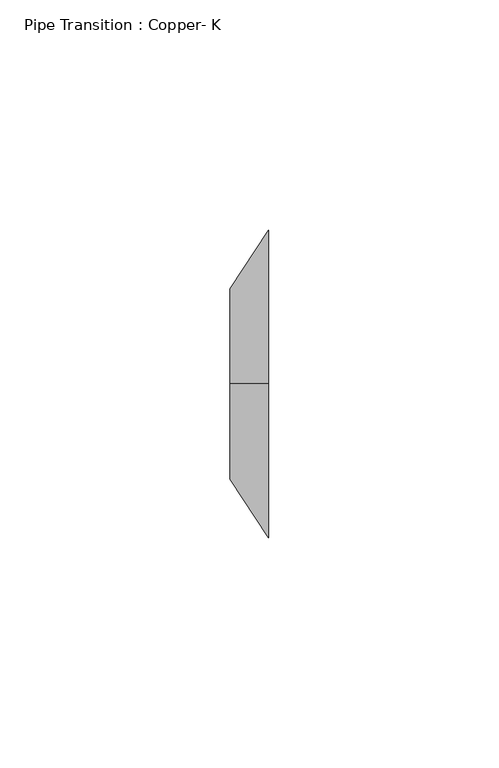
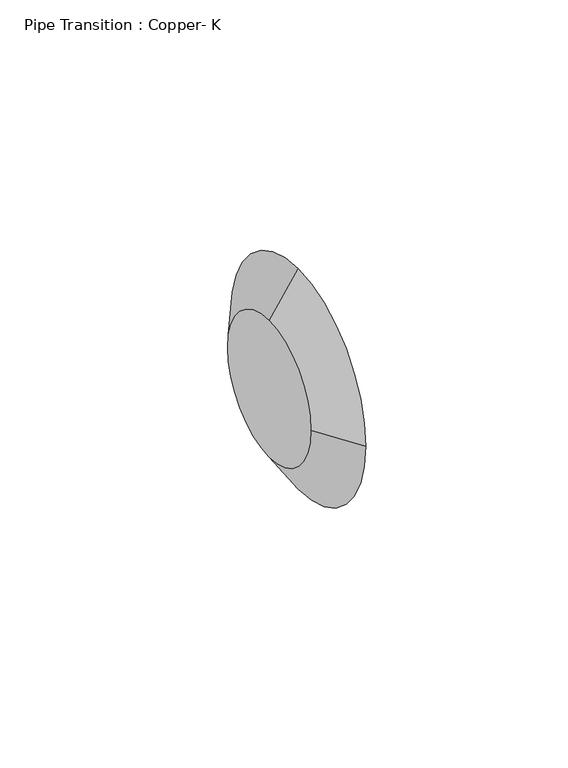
"""IFC4 building model written with IfcOpenShell, lengths in millimetres: pipe fitting geometry, Pipe Transition : Copper- K."""

from ifc_helpers import new_model, si_unit, frame, origin, place, context, project, spatial, polyline, circle_curve, source, transform, mapped, element, save
from ifc_brep_helpers import plane_surface, revolved_surface, advanced_brep


def pipe_transition_copper_k_b6fcaa56(model_context):
    return source(origin(), model_context, "Body", "AdvancedBrep", [
        advanced_brep(
        [(8.334375, 0.0, 33.3375), (8.334375, -33.3375, 0.0), (8.334375, 0.0, -33.3375), (8.334375, 33.3375, 0.0), (0.0, 0.0, 20.6375), (0.0, 20.6375, 0.0), (0.0, 0.0, -20.6375), (0.0, -20.6375, 0.0)],
        [
            (0, 1, circle_curve(frame((8.334375, 0.0, 0.0), z_axis=(1.0, 0.0, 0.0), x_axis=(0.0, 0.0, 1.0)), 33.3375)),
            (1, 2, circle_curve(frame((8.334375, 0.0, 0.0), z_axis=(1.0, 0.0, 0.0), x_axis=(0.0, -1.0, 0.0)), 33.3375)),
            (2, 3, circle_curve(frame((8.334375, 0.0, 0.0), z_axis=(1.0, 0.0, 0.0), x_axis=(0.0, 0.0, -1.0)), 33.3375)),
            (3, 0, circle_curve(frame((8.334375, 0.0, 0.0), z_axis=(1.0, 0.0, 0.0), x_axis=(0.0, 1.0, 0.0)), 33.3375)),
            (4, 5, circle_curve(frame((0.0, 0.0, 0.0), z_axis=(-1.0, 0.0, 0.0), x_axis=(0.0, 1.0, 0.0)), 20.6375)),
            (5, 6, circle_curve(frame((0.0, 0.0, 0.0), z_axis=(-1.0, 0.0, 0.0), x_axis=(0.0, 0.0, -1.0)), 20.6375)),
            (6, 7, circle_curve(frame((0.0, 0.0, 0.0), z_axis=(-1.0, 0.0, 0.0), x_axis=(0.0, -1.0, 0.0)), 20.6375)),
            (7, 4, circle_curve(frame((0.0, 0.0, 0.0), z_axis=(-1.0, 0.0, 0.0), x_axis=(0.0, 0.0, 1.0)), 20.6375)),
            (7, 1),
            (0, 4),
            (6, 2),
            (5, 3),
        ],
        [
            plane_surface(frame((8.334375, 0.0, 0.0), z_axis=(1.0, 0.0, 0.0), x_axis=(0.0, -1.0, 0.0))),
            plane_surface(frame((0.0, 0.0, 0.0), z_axis=(-1.0, 0.0, 0.0), x_axis=(0.0, -1.0, 0.0))),
            revolved_surface(polyline([(0.0, -20.63750001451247, 0.0), (8.334375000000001, -33.3375, 0.0)]), (-13.5433594, 0.0, 0.0), (1.0, 0.0, 0.0)),
            revolved_surface(polyline([(0.0, 0.0, -20.63750001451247), (8.334375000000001, 0.0, -33.3375)]), (-13.5433594, 0.0, 0.0), (1.0, 0.0, 0.0)),
            revolved_surface(polyline([(0.0, 20.63750001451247, 0.0), (8.334375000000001, 33.3375, 0.0)]), (-13.5433594, 0.0, 0.0), (1.0, 0.0, 0.0)),
            revolved_surface(polyline([(0.0, 0.0, 20.63750001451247), (8.334375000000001, 0.0, 33.3375)]), (-13.5433594, 0.0, 0.0), (1.0, 0.0, 0.0)),
        ],
        [
            (0, [[1, 2, 3, 4]]),
            (1, [[5, 6, 7, 8]]),
            (2, [[-8, 9, -1, 10]]),
            (3, [[-7, 11, -2, -9]]),
            (4, [[-6, 12, -3, -11]]),
            (5, [[-5, -10, -4, -12]]),
        ],
    ),
        advanced_brep(
        [(8.334375, 0.0, 33.3375), (8.334375, -33.3375, 0.0), (8.334375, 0.0, -33.3375), (8.334375, 33.3375, 0.0), (0.0, 0.0, 20.6375), (0.0, 20.6375, 0.0), (0.0, 0.0, -20.6375), (0.0, -20.6375, 0.0)],
        [
            (0, 1, circle_curve(frame((8.334375, 0.0, 0.0), z_axis=(1.0, 0.0, -1.0080245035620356e-12), x_axis=(1.0080406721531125e-12, 0.0, 1.0)), 33.3375)),
            (1, 2, circle_curve(frame((8.334375, 0.0, 0.0), z_axis=(1.0, 0.0, 0.0), x_axis=(0.0, -1.0, 0.0)), 33.3375)),
            (2, 3, circle_curve(frame((8.334375, 0.0, 0.0), z_axis=(1.0, 0.0, -1.5686117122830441e-12), x_axis=(-1.5685649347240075e-12, 0.0, -1.0)), 33.3375)),
            (3, 0, circle_curve(frame((8.334375, 0.0, 0.0), z_axis=(1.0, 0.0, 0.0), x_axis=(0.0, 1.0, 0.0)), 33.3375)),
            (4, 5, circle_curve(frame((0.0, 0.0, 0.0), z_axis=(-1.0, 0.0, 0.0), x_axis=(0.0, 1.0, 0.0)), 20.6375)),
            (5, 6, circle_curve(frame((0.0, 0.0, 0.0), z_axis=(-1.0, 0.0, 1.5686117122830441e-12), x_axis=(-1.5685649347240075e-12, 0.0, -1.0)), 20.6375)),
            (6, 7, circle_curve(frame((0.0, 0.0, 0.0), z_axis=(-1.0, 0.0, 0.0), x_axis=(0.0, -1.0, 0.0)), 20.6375)),
            (7, 4, circle_curve(frame((0.0, 0.0, 0.0), z_axis=(-1.0, 0.0, 1.0080245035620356e-12), x_axis=(1.0080406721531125e-12, 0.0, 1.0)), 20.6375)),
            (7, 1),
            (0, 4),
            (6, 2),
            (5, 3),
        ],
        [
            plane_surface(frame((8.334375, 0.0, 0.0), z_axis=(1.0, 0.0, 0.0), x_axis=(0.0, -1.0, 0.0))),
            plane_surface(frame((0.0, 0.0, 0.0), z_axis=(-1.0, 0.0, 0.0), x_axis=(0.0, -1.0, 0.0))),
            revolved_surface(polyline([(-2.0802914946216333e-11, -20.637500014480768, 0.0), (8.334375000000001, -33.3375, 0.0)]), (-13.5433594, 0.0, 0.0), (1.0, 0.0, -1.0080245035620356e-12)),
            revolved_surface(polyline([(0.0, 0.0, -20.63750001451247), (8.334375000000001, 0.0, -33.3375)]), (-13.5433594, 0.0, 0.0), (1.0, 0.0, 0.0)),
            revolved_surface(polyline([(0.0, 20.63750001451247, 0.0), (8.334375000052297, 33.337500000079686, 0.0)]), (-13.5433594, 0.0, 0.0), (1.0, 0.0, -1.5686117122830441e-12)),
            revolved_surface(polyline([(0.0, 0.0, 20.63750001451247), (8.334375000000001, 0.0, 33.3375)]), (-13.5433594, 0.0, 0.0), (1.0, 0.0, 0.0)),
        ],
        [
            (0, [[1, 2, 3, 4]]),
            (1, [[5, 6, 7, 8]]),
            (2, [[-8, 9, -1, 10]]),
            (3, [[-7, 11, -2, -9]]),
            (4, [[-6, 12, -3, -11]]),
            (5, [[-5, -10, -4, -12]]),
        ],
    ),
    ])


if __name__ == "__main__":
    model = new_model("IFC4")
    model_context = context("Model", 3, world=origin())
    ifc_project = project(units=[si_unit("LENGTHUNIT", "METRE", prefix="MILLI")], contexts=[model_context])
    site = spatial("IfcSite", under=ifc_project)
    building = spatial("IfcBuilding", under=site)
    placement = place(None, origin())
    pipe_transition_copper_k_shape = pipe_transition_copper_k_b6fcaa56(model_context)
    element("IfcPipeFitting", 1, ObjectType="Pipe Transition : Copper- K", at=placement, inside=building, context=model_context, shape_type="MappedRepresentation", body=[
        mapped(pipe_transition_copper_k_shape, transform((0.0, 0.0, 0.0), x_axis=(1.0, 0.0, 0.0), y_axis=(0.0, 1.0, 0.0), z_axis=(0.0, 0.0, 1.0))),
    ])
    save(model, "model.ifc")
